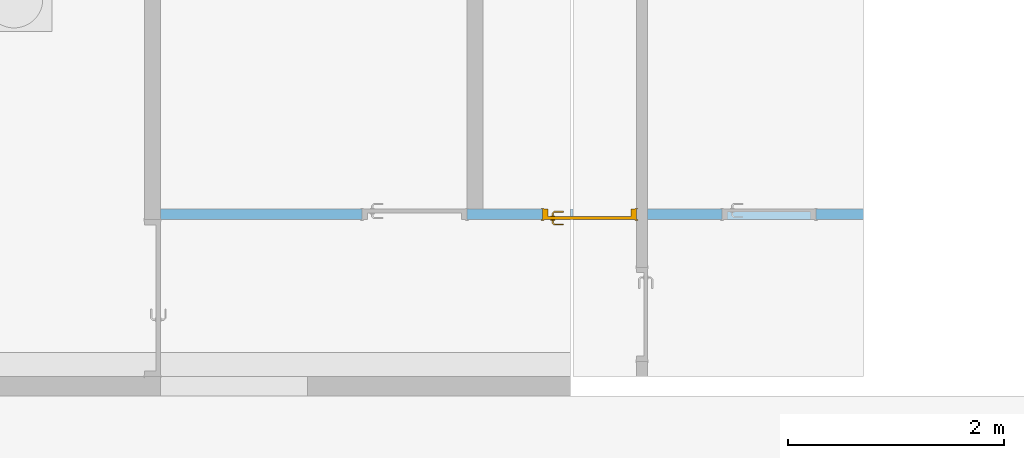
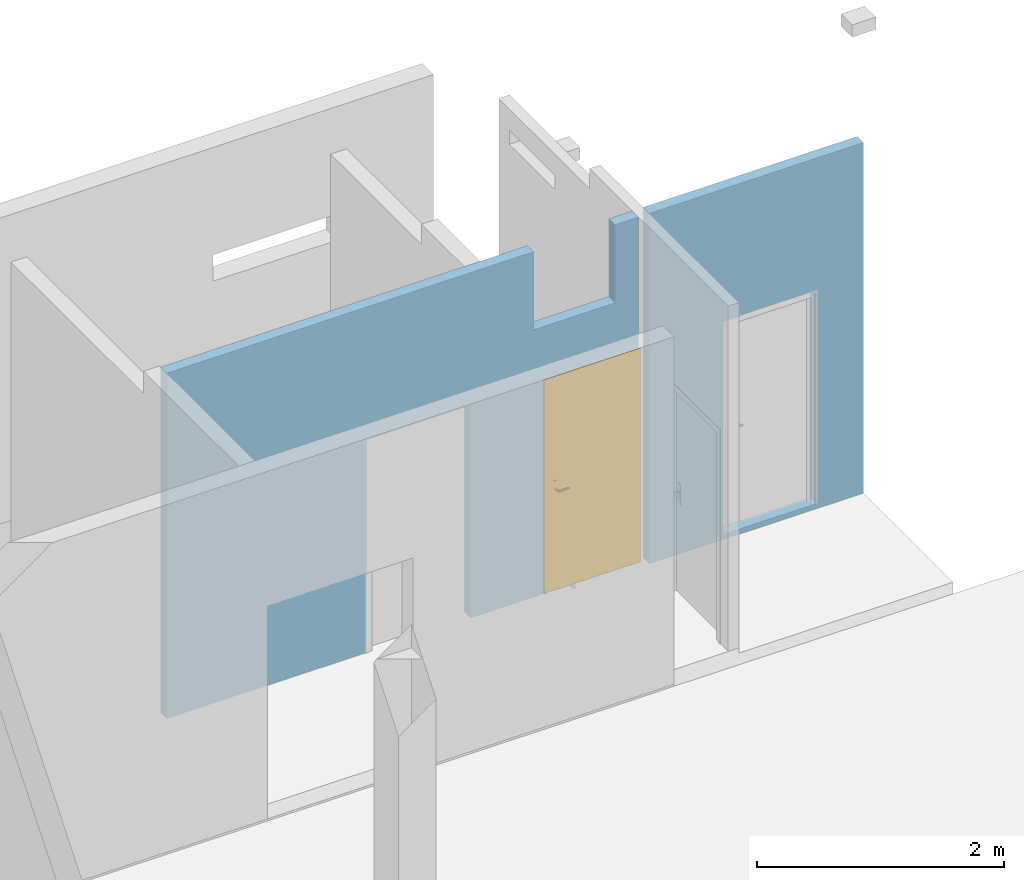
# One storey, part 24 of 29: 1 door, 3 openings, plus 1 element that does not belong to this part.
"""IFC2X3 building model written with IfcOpenShell, lengths in centimetres."""

from ifc_helpers import new_model, entity, si_unit, converted_unit, derived_unit, direction, frame, frame_2d, origin, place, context, subcontext, project, spatial, rectangle, extrude, faceted_brep, source, transform, mapped, material, material_list, layer, layer_set, type_object, type_shapes, element, fill, save


model = new_model("IFC2X3")

# Units and contexts
model_context = context("Model", 3, precision=0.001, world=origin(), true_north=direction((6.12303176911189e-17, 1.0)))
body_context = subcontext(model_context, "Body", "Model", "MODEL_VIEW")
ifc_project = project(units=[si_unit("LENGTHUNIT", "METRE", prefix="CENTI"), si_unit("AREAUNIT", "SQUARE_METRE"), si_unit("VOLUMEUNIT", "CUBIC_METRE"), converted_unit("PLANEANGLEUNIT", "DEGREE", entity("IfcRatioMeasure", 0.0174532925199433), si_unit("PLANEANGLEUNIT", "RADIAN"), dimensions=[0, 0, 0, 0, 0, 0, 0]), si_unit("MASSUNIT", "GRAM", prefix="KILO"), derived_unit("MASSDENSITYUNIT", [(si_unit("MASSUNIT", "GRAM", prefix="KILO"), 1), (si_unit("LENGTHUNIT", "METRE"), -3)]), si_unit("TIMEUNIT", "SECOND"), si_unit("FREQUENCYUNIT", "HERTZ"), si_unit("THERMODYNAMICTEMPERATUREUNIT", "DEGREE_CELSIUS"), derived_unit("THERMALTRANSMITTANCEUNIT", [(si_unit("MASSUNIT", "GRAM", prefix="KILO"), 1), (si_unit("THERMODYNAMICTEMPERATUREUNIT", "KELVIN"), -1), (si_unit("TIMEUNIT", "SECOND"), -3)]), derived_unit("VOLUMETRICFLOWRATEUNIT", [(si_unit("LENGTHUNIT", "METRE"), 3), (si_unit("TIMEUNIT", "SECOND"), -1)]), si_unit("ELECTRICCURRENTUNIT", "AMPERE"), si_unit("ELECTRICVOLTAGEUNIT", "VOLT"), si_unit("POWERUNIT", "WATT"), si_unit("FORCEUNIT", "NEWTON"), si_unit("ILLUMINANCEUNIT", "LUX"), si_unit("LUMINOUSFLUXUNIT", "LUMEN"), si_unit("LUMINOUSINTENSITYUNIT", "CANDELA"), derived_unit("USERDEFINED", [(si_unit("MASSUNIT", "GRAM", prefix="KILO"), -1), (si_unit("LENGTHUNIT", "METRE"), -2), (si_unit("TIMEUNIT", "SECOND"), 3), (si_unit("LUMINOUSFLUXUNIT", "LUMEN"), 1)]), derived_unit("LINEARVELOCITYUNIT", [(si_unit("LENGTHUNIT", "METRE"), 1), (si_unit("TIMEUNIT", "SECOND"), -1)]), si_unit("PRESSUREUNIT", "PASCAL"), derived_unit("USERDEFINED", [(si_unit("LENGTHUNIT", "METRE"), -2), (si_unit("MASSUNIT", "GRAM", prefix="KILO"), 1), (si_unit("TIMEUNIT", "SECOND"), -2)])], contexts=[model_context])

# Site, building, storey
site_placement = place(None, origin())
site = spatial("IfcSite", under=ifc_project, at=site_placement, Name="Default", CompositionType="ELEMENT")
building_placement = place(site_placement, origin())
building = spatial("IfcBuilding", under=site, at=building_placement, Name="CAGE 03", CompositionType="ELEMENT")
storey_placement = place(building_placement, frame((0.0, 0.0, -26.0)))
storey = spatial("IfcBuildingStorey", under=building, at=storey_placement, Name="+3.74", CompositionType="ELEMENT", Elevation=-26.0000000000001)

# Wall, openings, door
ifc_material_1 = material(Name="Bloc béton")
ifc_layer = layer(ifc_material_1, 10.0)
ifc_layer_set = layer_set([ifc_layer], Name="Mur de base:Int. Parpaing 100 mm")
wall_type = type_object("IfcWallType", Name="Mur de base:Int. Parpaing 100 mm", PredefinedType="STANDARD", material=ifc_layer_set)
wall_placement = place(storey_placement, frame((8407.86582014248, 5054.6606660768, -5.0)))
wall = element("IfcWall", 1, at=wall_placement, inside=storey, type_object=wall_type, Name="Mur de base:Int. Parpaing 100 mm", ObjectType="Mur de base:Int. Parpaing 100 mm", context=body_context, shape_type="Brep", body=[
    faceted_brep([(379.500000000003, -5.0, 0.0), (381.500000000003, -5.0, 0.0), (381.500000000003, -5.0, 5.0), (379.500000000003, -5.0, 5.0), (381.500000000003, 5.0, 5.0), (379.500000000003, 5.0, 5.0), (379.500000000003, 5.0, 0.0), (381.500000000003, 5.0, 0.0)], [[[0, 1, 2, 3]], [[3, 2, 4, 5]], [[1, 0, 6, 7]], [[2, 1, 7, 4]], [[0, 3, 5, 6]], [[7, 6, 5, 4]]]),
    faceted_brep([(606.5, 5.0, 5.0), (606.5, 5.0, 215.0), (519.499999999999, 5.0, 215.0), (519.500000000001, 5.0, 5.0), (450.500000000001, 5.0, 0.0), (450.500000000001, 5.0, 346.0), (650.5, 5.0, 346.0), (650.5, 5.0, 0.0), (450.500000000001, -5.0, 346.0), (450.500000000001, -5.0, 0.0), (650.5, -5.0, 346.0), (650.5, -5.0, 0.0), (606.5, -5.0, 5.0), (606.5, -5.0, 215.0), (519.500000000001, -5.0, 215.0), (519.500000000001, -5.0, 5.0)], [[[0, 1, 2, 3], [4, 5, 6, 7]], [[8, 5, 4, 9]], [[10, 11, 7, 6]], [[0, 12, 13, 1]], [[1, 13, 14, 2]], [[15, 3, 2, 14]], [[12, 0, 3, 15]], [[8, 10, 6, 5]], [[7, 11, 9, 4]], [[8, 9, 11, 10], [13, 12, 15, 14]]], outer=[[False, True], [True], [True], [True], [True], [True], [True], [True], [True], [True, False]]),
    faceted_brep([(0.0, -5.0, 346.0), (0.0, 5.0, 346.0), (0.0, 5.0, 5.0), (0.0, -5.0, 5.0), (0.0, -5.0, 212.500000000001), (440.500000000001, -5.0, 346.0), (440.500000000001, -5.0, 215.0), (440.500000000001, 5.0, 215.0), (440.500000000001, 5.0, 346.0), (283.499999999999, -5.0, 215.0), (283.499999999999, 5.0, 215.0), (283.499999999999, 5.0, 5.0), (283.499999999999, -5.0, 5.0), (186.5, -5.0, 215.0), (186.5, 5.0, 215.0), (186.5, -5.0, 5.0), (186.5, 5.0, 5.0), (353.5, -5.0, 215.0), (353.5, 5.0, 215.0), (353.5, -5.0, 5.0), (353.5, 5.0, 5.0), (418.499999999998, -5.0, 269.0), (418.499999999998, -5.0, 346.0), (418.499999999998, 5.0, 346.0), (418.499999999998, 5.0, 269.0), (342.499999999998, -5.0, 269.0), (342.499999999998, 5.0, 269.0), (342.499999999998, -5.0, 346.0), (342.499999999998, 5.0, 346.0), (298.500000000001, 5.0, 346.0), (283.500000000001, 5.0, 346.0), (298.500000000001, 5.0, 5.0)], [[[0, 1, 2, 3, 4]], [[5, 6, 7, 8]], [[9, 10, 11, 12]], [[10, 9, 13, 14]], [[14, 13, 15, 16]], [[17, 18, 7, 6]], [[18, 17, 19, 20]], [[21, 22, 23, 24]], [[25, 21, 24, 26]], [[27, 25, 26, 28]], [[0, 27, 28, 29, 30, 1]], [[15, 3, 2, 16]], [[19, 12, 11, 31, 20]], [[22, 5, 8, 23]], [[8, 7, 18, 20, 31, 11, 10, 14, 16, 2, 1, 30, 29, 28, 26, 24, 23]], [[6, 5, 22, 21, 25, 27, 0, 4, 3, 15, 13, 9, 12, 19, 17]]]),
])
opening_1_placement = place(wall_placement, frame((186.500000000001, -5.0, 5.0)))
element("IfcOpeningElement", 2, at=opening_1_placement, cuts=wall, Name="Int. Simple:HB93:1", ObjectType="Opening", context=body_context, shape_type="SweptSolid", body=[
    extrude(rectangle(XDim=210.000000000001, YDim=96.9999999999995, at=frame_2d((105.000000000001, 48.4999999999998), x_axis=(1.0, 0.0))), frame((0.0, 0.0, 0.0), z_axis=(0.0, 1.0, 0.0), x_axis=(0.0, 0.0, 1.0)), (0.0, 0.0, 1.0), 10.0),
])
opening_2_placement = place(wall_placement, frame((440.500000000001, 5.0, 5.0)))
opening_2 = element("IfcOpeningElement", 3, at=opening_2_placement, cuts=wall, Name="Int. Simple:HB83:1", ObjectType="Opening", context=body_context, shape_type="SweptSolid", body=[
    extrude(rectangle(XDim=210.000000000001, YDim=86.9999999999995, at=frame_2d((105.000000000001, 43.4999999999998), x_axis=(1.0, 0.0))), frame((0.0, 0.0, 0.0), z_axis=(0.0, -1.0, 0.0), x_axis=(0.0, 0.0, 1.0)), (0.0, 0.0, 1.0), 10.0),
])
opening_3_placement = place(wall_placement, frame((519.500000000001, -5.0, 5.0)))
element("IfcOpeningElement", 4, at=opening_3_placement, cuts=wall, Name="Int. Simple:HB83:1", ObjectType="Opening", context=body_context, shape_type="SweptSolid", body=[
    extrude(rectangle(XDim=210.000000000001, YDim=86.9999999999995, at=frame_2d((105.000000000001, 43.4999999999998), x_axis=(1.0, 0.0))), frame((0.0, 0.0, 0.0), z_axis=(0.0, 1.0, 0.0), x_axis=(0.0, 0.0, 1.0)), (0.0, 0.0, 1.0), 10.0),
])
ifc_material_2 = material(Name="Finition Peinture - Blanc satiné")
ifc_material_3 = material(Name="Bois - Panneau de porte")
ifc_material_4 = material(Name="Bois - Cadre de porte")
ifc_material_list_1 = material_list([ifc_material_2, ifc_material_3, ifc_material_4])
ifc_material_list_2 = material_list([ifc_material_2, ifc_material_3, ifc_material_4])
door_style = type_object("IfcDoorStyle", Name="HB83", ConstructionType="NOTDEFINED", OperationType="SINGLE_SWING_LEFT", ParameterTakesPrecedence=False, Sizeable=False, material=ifc_material_list_2)
shared_shape = source(origin(), body_context, "Body", "Brep", [
    faceted_brep([(10.5352761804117, -0.500000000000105, 86.6003983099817), (11.5000000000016, -0.500000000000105, 87.0), (11.5000000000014, -0.500000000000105, 108.0), (10.5352761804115, -0.500000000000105, 108.399601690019), (9.50000000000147, -0.500000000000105, 108.535898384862), (8.4647238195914, -0.500000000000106, 108.399601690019), (7.5000000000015, -0.500000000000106, 108.0), (7.50000000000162, -0.500000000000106, 87.0), (8.46472381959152, -0.500000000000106, 86.6003983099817), (9.50000000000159, -0.500000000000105, 86.464101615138), (10.5352761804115, 0.0, 108.399601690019), (11.5000000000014, 0.0, 108.0), (11.5000000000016, 0.0, 87.0), (10.5352761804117, 0.0, 86.6003983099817), (9.50000000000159, 0.0, 86.464101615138), (8.46472381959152, 0.0, 86.6003983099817), (7.50000000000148, 0.0, 87.0), (7.5000000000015, 0.0, 108.0), (8.4647238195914, 0.0, 108.399601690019), (9.50000000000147, 0.0, 108.535898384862)], [[[0, 1, 2, 3, 4, 5, 6, 7, 8, 9]], [[10, 11, 12, 13, 14, 15, 16, 17, 18, 19]], [[16, 15, 8, 7]], [[8, 15, 14, 9]], [[14, 13, 0, 9]], [[13, 12, 1, 0]], [[2, 1, 12, 11]], [[11, 10, 3, 2]], [[3, 10, 19, 4]], [[19, 18, 5, 4]], [[18, 17, 6, 5]], [[7, 6, 17, 16]]]),
    faceted_brep([(10.5352761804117, 3.0, 86.6003983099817), (11.5000000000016, 3.0, 87.0), (11.5000000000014, 3.0, 108.0), (10.5352761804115, 3.0, 108.399601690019), (9.50000000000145, 3.0, 108.535898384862), (8.46472381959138, 3.0, 108.399601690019), (7.50000000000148, 3.0, 108.0), (7.50000000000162, 3.0, 87.0), (8.46472381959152, 3.0, 86.6003983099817), (9.5000000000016, 3.0, 86.464101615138), (10.5352761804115, 3.49999999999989, 108.399601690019), (11.5000000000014, 3.49999999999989, 108.0), (11.5000000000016, 3.49999999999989, 87.0), (10.5352761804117, 3.49999999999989, 86.6003983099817), (9.5000000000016, 3.49999999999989, 86.464101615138), (8.46472381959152, 3.49999999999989, 86.6003983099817), (7.50000000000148, 3.49999999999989, 87.0), (7.50000000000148, 3.49999999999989, 108.0), (8.46472381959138, 3.49999999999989, 108.399601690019), (9.50000000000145, 3.49999999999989, 108.535898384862)], [[[0, 1, 2, 3, 4, 5, 6, 7, 8, 9]], [[10, 11, 12, 13, 14, 15, 16, 17, 18, 19]], [[11, 10, 3, 2]], [[3, 10, 19, 4]], [[19, 18, 5, 4]], [[18, 17, 6, 5]], [[7, 6, 17, 16]], [[16, 15, 8, 7]], [[8, 15, 14, 9]], [[14, 13, 0, 9]], [[13, 12, 1, 0]], [[2, 1, 12, 11]]]),
    faceted_brep([(9.2974701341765, -0.500000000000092, 100.778044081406), (9.70252986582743, -0.50000000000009, 100.778044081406), (10.1000000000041, -0.500000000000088, 100.699999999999), (10.1000000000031, -0.500000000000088, 99.3000000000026), (9.70252986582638, -0.50000000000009, 99.2219559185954), (9.29747013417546, -0.500000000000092, 99.2219559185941), (8.89999999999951, -0.500000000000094, 99.2999999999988), (8.8999999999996, -0.500000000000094, 100.7), (8.89999999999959, -3.26509507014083, 100.7), (9.29747013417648, -3.1004575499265, 100.778044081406), (10.9023585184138, -4.70534593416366, 100.778044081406), (11.0701397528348, -4.30028620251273, 100.778044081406), (9.70252986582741, -2.93267631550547, 100.778044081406), (10.1000000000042, -2.76803879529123, 100.7), (10.1000000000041, -2.76803879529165, 99.3000000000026), (9.70252986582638, -2.93267631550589, 99.2219559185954), (11.0701397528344, -4.30028620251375, 99.2219559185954), (10.9023585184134, -4.70534593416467, 99.2219559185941), (9.29747013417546, -3.10045754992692, 99.2219559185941), (8.89999999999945, -3.26509507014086, 99.2999999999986), (10.7377209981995, -5.10281606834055, 100.7), (11.2347772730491, -3.90281606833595, 100.7), (11.2347772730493, -3.90281606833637, 99.3000000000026), (10.7377209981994, -5.10281606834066, 99.2999999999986), (19.5018640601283, -5.10281606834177, 99.2999999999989), (19.5018640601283, -4.70534593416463, 99.2219559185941), (19.5018640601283, -4.30028620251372, 99.2219559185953), (19.5018640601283, -3.90281606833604, 99.3000000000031), (19.5018640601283, -3.90281606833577, 100.7), (19.5018640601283, -4.30028620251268, 100.778044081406), (19.5018640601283, -4.7053459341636, 100.778044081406), (19.5018640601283, -5.10281606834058, 100.699999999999), (14.7307697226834, -5.10281606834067, 100.7), (15.2860019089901, -4.50281606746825, 100.78786867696), (15.3683206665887, -3.90281606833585, 100.7), (15.3683206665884, -3.90281606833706, 99.3000000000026), (15.2860018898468, -4.50281607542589, 99.2121313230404), (14.7307703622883, -5.10281606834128, 99.2999999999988)], [[[0, 1, 2, 3, 4, 5, 6, 7]], [[8, 9, 0, 7]], [[9, 10, 11, 12, 1, 0]], [[12, 13, 2, 1]], [[3, 2, 13, 14]], [[14, 15, 4, 3]], [[15, 16, 17, 18, 5, 4]], [[18, 19, 6, 5]], [[7, 6, 19, 8]], [[20, 10, 9, 8]], [[11, 21, 13, 12]], [[14, 13, 21, 22]], [[22, 16, 15, 14]], [[17, 23, 19, 18]], [[8, 19, 23, 20]], [[24, 25, 26, 27, 28, 29, 30, 31]], [[32, 30, 33]], [[31, 30, 32]], [[10, 20, 32]], [[33, 34, 11]], [[21, 11, 34]], [[34, 29, 28]], [[30, 29, 33]], [[29, 34, 33]], [[10, 32, 33]], [[10, 33, 11]], [[22, 21, 34, 28, 27, 35]], [[35, 26, 36]], [[37, 36, 25]], [[22, 35, 16]], [[35, 27, 26]], [[24, 37, 25]], [[23, 17, 37]], [[37, 17, 36]], [[17, 16, 36]], [[16, 35, 36]], [[25, 36, 26]], [[20, 23, 37, 24, 31, 32]]]),
    faceted_brep([(9.29747013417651, 3.49999999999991, 100.778044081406), (8.89999999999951, 3.49999999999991, 100.7), (8.89999999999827, 3.49999999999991, 99.299999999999), (9.29747013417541, 3.49999999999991, 99.2219559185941), (9.70252986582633, 3.49999999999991, 99.2219559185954), (10.100000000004, 3.49999999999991, 99.3000000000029), (10.1000000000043, 3.49999999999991, 100.7), (9.70252986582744, 3.49999999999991, 100.778044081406), (10.100000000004, 5.74852045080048, 99.3000000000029), (10.100000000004, 5.74852045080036, 100.7), (9.70252986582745, 5.91315797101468, 100.778044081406), (11.0838906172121, 7.29451872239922, 100.778044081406), (10.9161093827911, 7.69957845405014, 100.778044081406), (9.29747013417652, 6.08093920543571, 100.778044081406), (8.8999999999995, 6.2455767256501, 100.7), (8.89999999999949, 6.24557672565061, 99.299999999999), (9.29747013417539, 6.08093920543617, 99.2219559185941), (10.9161093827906, 7.69957845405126, 99.2219559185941), (11.0838906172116, 7.29451872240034, 99.2219559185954), (9.70252986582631, 5.91315797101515, 99.2219559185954), (11.2485281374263, 6.89704858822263, 99.3000000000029), (11.2485281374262, 6.89704858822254, 100.7), (10.7514718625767, 8.09704858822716, 100.7), (10.7514718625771, 8.09704858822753, 99.299999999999), (19.5045783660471, 6.8970485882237, 99.3000000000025), (19.5045783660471, 7.29451872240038, 99.2219559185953), (19.5045783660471, 7.6995784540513, 99.2219559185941), (19.5045783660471, 8.09704858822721, 99.2999999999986), (19.5045783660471, 8.0970485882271, 100.7), (19.5045783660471, 7.6995784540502, 100.778044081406), (19.5045783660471, 7.29451872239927, 100.778044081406), (19.5045783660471, 6.89704858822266, 100.7), (15.3765532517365, 6.89704858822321, 99.3000000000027), (15.3765532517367, 6.89704858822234, 100.7), (15.2942344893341, 7.49704858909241, 100.78786867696), (14.7445205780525, 8.09704858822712, 100.7), (14.7445205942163, 8.09704858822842, 99.299999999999), (15.2942345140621, 7.49704858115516, 99.2121313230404)], [[[0, 1, 2, 3, 4, 5, 6, 7]], [[6, 5, 8, 9]], [[9, 10, 7, 6]], [[10, 11, 12, 13, 0, 7]], [[13, 14, 1, 0]], [[2, 1, 14, 15]], [[15, 16, 3, 2]], [[16, 17, 18, 19, 4, 3]], [[19, 8, 5, 4]], [[9, 8, 20, 21]], [[21, 11, 10, 9]], [[12, 22, 14, 13]], [[15, 14, 22, 23]], [[23, 17, 16, 15]], [[18, 20, 8, 19]], [[24, 25, 26, 27, 28, 29, 30, 31]], [[21, 20, 32, 24, 31, 33]], [[33, 30, 34]], [[35, 34, 29]], [[21, 33, 11]], [[33, 31, 30]], [[28, 35, 29]], [[22, 12, 35]], [[35, 12, 34]], [[12, 11, 34]], [[11, 33, 34]], [[29, 34, 30]], [[22, 35, 28, 27, 36, 23]], [[36, 26, 37]], [[27, 26, 36]], [[17, 23, 36]], [[37, 32, 18]], [[20, 18, 32]], [[32, 25, 24]], [[26, 25, 37]], [[25, 32, 37]], [[17, 36, 37]], [[17, 37, 18]]]),
    faceted_brep([(3.50000000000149, 3.0, 206.5), (83.5000000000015, 3.0, 206.5), (83.5000000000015, 3.0, 0.0), (3.50000000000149, 3.0, 0.0), (3.50000000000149, 0.0, 206.5), (3.50000000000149, 0.0, 0.0), (83.5000000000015, 0.0, 0.0), (83.5000000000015, 0.0, 206.5)], [[[0, 1, 2, 3]], [[4, 5, 6, 7]], [[1, 0, 4, 7]], [[2, 1, 7, 6]], [[3, 2, 6, 5]], [[0, 3, 5, 4]]]),
    faceted_brep([(0.0, 0.0, 0.0), (0.0, 10.0, 0.0), (5.0, 10.0, 0.0), (5.0, 3.0, 0.0), (3.50000000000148, 3.0, 0.0), (3.50000000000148, 0.0, 0.0), (0.0, 0.0, 210.0), (0.0, 10.0, 210.0), (87.0, 10.0, 210.0), (87.0, 10.0, 0.0), (82.0, 10.0, 0.0), (82.0, 10.0, 205.0), (5.0, 10.0, 205.0), (5.0, 3.0, 205.0), (82.0, 3.0, 205.0), (82.0, 3.0, 0.0), (83.4999999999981, 3.0, 0.0), (83.4999999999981, 3.0, 206.5), (3.50000000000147, 3.0, 206.5), (3.50000000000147, 0.0, 206.5), (83.4999999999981, 0.0, 206.5), (83.4999999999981, 0.0, 0.0), (87.0, 0.0, 0.0), (87.0, 0.0, 210.0)], [[[0, 1, 2, 3, 4, 5]], [[1, 0, 6, 7]], [[2, 1, 7, 8, 9, 10, 11, 12]], [[3, 2, 12, 13]], [[4, 3, 13, 14, 15, 16, 17, 18]], [[5, 4, 18, 19]], [[0, 5, 19, 20, 21, 22, 23, 6]], [[8, 23, 22, 9]], [[22, 21, 16, 15, 10, 9]], [[14, 11, 10, 15]], [[20, 17, 16, 21]], [[7, 6, 23, 8]], [[13, 12, 11, 14]], [[19, 18, 17, 20]]]),
    faceted_brep([(1.5, 10.0, 0.0), (-1.5, 10.0, 0.0), (-1.5, 10.5000000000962, 0.0), (1.5, 10.5000000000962, 0.0), (1.49999999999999, 10.0, 208.500000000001), (85.4999999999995, 10.0, 208.500000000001), (85.4999999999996, 10.0, 0.0), (88.4999999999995, 10.0, 0.0), (88.4999999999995, 10.0, 211.500000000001), (-1.49999999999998, 10.0, 211.500000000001), (-1.49999999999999, 10.5000000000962, 211.500000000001), (88.4999999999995, 10.5000000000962, 211.500000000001), (88.4999999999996, 10.5000000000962, 0.0), (85.4999999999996, 10.5000000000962, 0.0), (85.4999999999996, 10.5000000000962, 208.500000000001), (1.49999999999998, 10.5000000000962, 208.500000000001)], [[[0, 1, 2, 3]], [[1, 0, 4, 5, 6, 7, 8, 9]], [[2, 1, 9, 10]], [[3, 2, 10, 11, 12, 13, 14, 15]], [[0, 3, 15, 4]], [[6, 13, 12, 7]], [[5, 14, 13, 6]], [[11, 8, 7, 12]], [[10, 9, 8, 11]], [[4, 15, 14, 5]]]),
    faceted_brep([(-1.5, -0.5, 0.0), (1.5, -0.5, 0.0), (1.49999999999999, -0.5, 208.500000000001), (85.4999999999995, -0.5, 208.500000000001), (85.4999999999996, -0.5, 0.0), (88.4999999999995, -0.5, 0.0), (88.4999999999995, -0.5, 211.500000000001), (-1.49999999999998, -0.5, 211.500000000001), (-1.5, 0.0, 0.0), (-1.49999999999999, 0.0, 211.500000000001), (1.5, 0.0, 0.0), (88.4999999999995, 0.0, 211.500000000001), (88.4999999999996, 0.0, 0.0), (85.4999999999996, 0.0, 0.0), (85.4999999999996, 0.0, 208.500000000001), (1.49999999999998, 0.0, 208.500000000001)], [[[0, 1, 2, 3, 4, 5, 6, 7]], [[8, 0, 7, 9]], [[10, 8, 9, 11, 12, 13, 14, 15]], [[1, 10, 15, 2]], [[3, 14, 13, 4]], [[11, 6, 5, 12]], [[9, 7, 6, 11]], [[2, 15, 14, 3]], [[4, 13, 12, 5]], [[1, 0, 8, 10]]]),
])
type_shapes(door_style, [shared_shape])
door_placement = place(opening_2_placement, frame((-87.0, -10.0, 0.0)))
door = element("IfcDoor", 5, at=door_placement, inside=storey, type_object=door_style, material=ifc_material_list_1, Name="Int. Simple:HB83", ObjectType="HB83", OverallHeight=210.000000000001, OverallWidth=86.9999999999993, context=body_context, shape_type="MappedRepresentation", body=[
    mapped(shared_shape, transform((0.0, 0.0, 0.0), scale=1.0)),
])
fill(opening_2, door)

save(model, "model.ifc")
